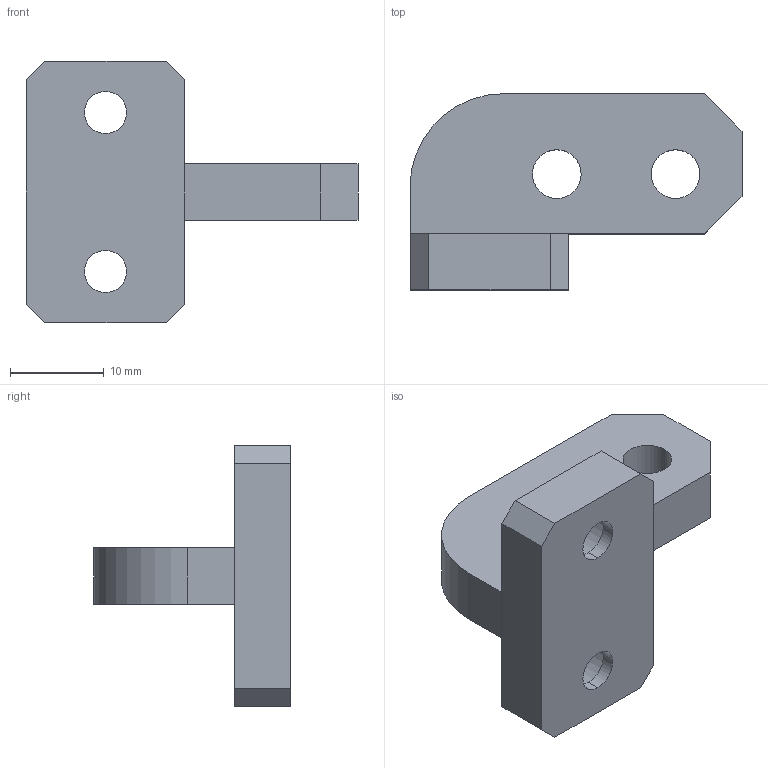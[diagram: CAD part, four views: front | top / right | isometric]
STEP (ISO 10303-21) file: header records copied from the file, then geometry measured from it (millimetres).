
FILE_DESCRIPTION (( 'STEP AP214' ), '1' );
FILE_NAME ('GZ47.09_V1肘夹安装座.STEP', '2021-07-01T01:20:56', ( '微软中国' ), ( 'Microsoft' ), 'SwSTEP 2.0', 'SolidWorks 2017', '' );
FILE_SCHEMA (( 'AUTOMOTIVE_DESIGN' ));
Length unit declared in the file: millimetre
Products named in the file (1): GZ47.09_V1紵標假蚾釱
Bounding box: 35.5 x 21 x 28 mm (x, y, z)
Volume: 5016.4 mm3; surface area: 3308.4 mm2
Topology: 2 solids, 2 shells, 33 faces, 81 edges, 54 vertices
Faces by surface type: plane 20, cylinder 13
Entity records: 1040 total; most frequent: DIRECTION 175, CARTESIAN_POINT 169, ORIENTED_EDGE 162, EDGE_CURVE 81, AXIS2_PLACEMENT_3D 60, LINE 55, VECTOR 55, VERTEX_POINT 54
